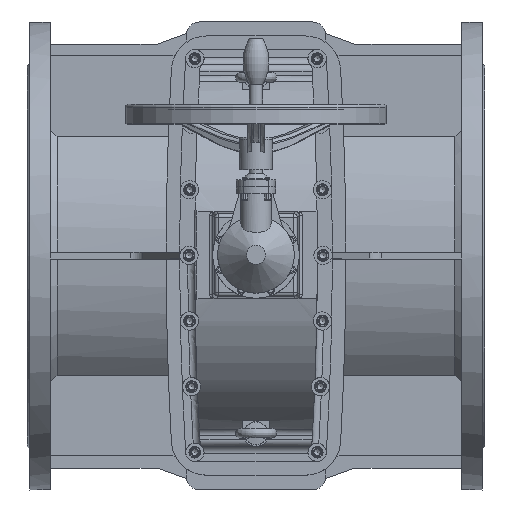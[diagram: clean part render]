
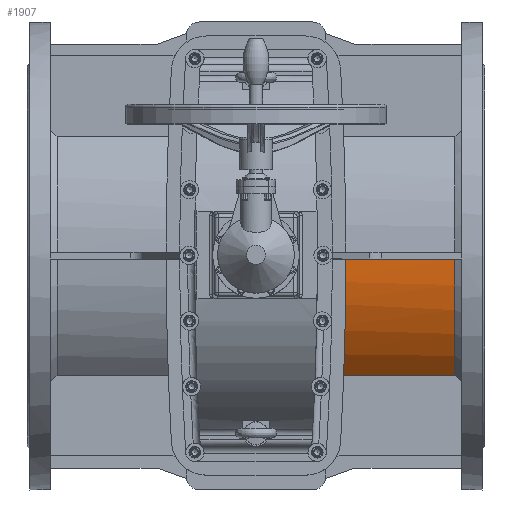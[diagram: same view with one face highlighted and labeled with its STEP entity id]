
A CAD part, top view. The second image highlights one B-rep face of the part: STEP entity #1907.
In plain terms, the highlighted cylindrical face has radius 260.5 mm (diameter 521 mm), a partial arc.
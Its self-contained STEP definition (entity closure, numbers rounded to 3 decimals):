
#1907=ADVANCED_FACE('',(#8719),#8721,.T.);
#8719=FACE_BOUND('',#8720,.T.);
#8720=EDGE_LOOP('',(#30439,#30440,#30441,#30442));
#8721=CYLINDRICAL_SURFACE('',#8722,260.5);
#8722=AXIS2_PLACEMENT_3D('',#8723,#8724,#8725);
#8723=CARTESIAN_POINT('',(314.5,0.,0.));
#8724=DIRECTION('',(-1.,0.,0.));
#8725=DIRECTION('',(0.,1.,0.));
#30439=ORIENTED_EDGE('',*,*,#36401,.F.);
#30440=ORIENTED_EDGE('',*,*,#36534,.T.);
#30441=ORIENTED_EDGE('',*,*,#36529,.F.);
#30442=ORIENTED_EDGE('',*,*,#36686,.T.);
#36401=EDGE_CURVE('',#39739,#39741,#39742,.T.);
#36529=EDGE_CURVE('',#39954,#39956,#39957,.F.);
#36534=EDGE_CURVE('',#39739,#39956,#39964,.T.);
#36686=EDGE_CURVE('',#39954,#39741,#40260,.F.);
#39739=VERTEX_POINT('',#47535);
#39741=VERTEX_POINT('',#47546);
#39742=LINE('',#47547,#47548);
#39954=VERTEX_POINT('',#49583);
#39956=VERTEX_POINT('',#49587);
#39957=LINE('',#49588,#49589);
#39964=CIRCLE('',#49613,260.5);
#40260=B_SPLINE_CURVE_WITH_KNOTS('',3,
(#50351,#50352,#50353,#50354,#50355,#50356,#50357,#50358,#50359,#50360,#50361,#50362,
#50363,#50364,#50365,#50366,#50367,#50368,#50369,#50370,#50371,#50372,#50373,#50374,
#50375,#50376,#50377,#50378,#50379,#50380,#50381,#50382,#50383,#50384,#50385),
.UNSPECIFIED.,.F.,.F.,
(4,1,1,1,1,1,1,1,1,1,1,1,1,1,1,1,1,1,1,1,1,1,1,1,1,1,1,1,1,1,1,1,4),
(0.,0.033,0.078,0.122,0.166,0.202,
0.24,0.295,0.349,0.402,0.437,
0.468,0.504,0.543,0.584,0.628,
0.67,0.712,0.739,0.763,0.784,
0.804,0.823,0.842,0.86,0.878,
0.896,0.914,0.932,0.949,0.966,
0.983,1.),
.UNSPECIFIED.);
#47535=CARTESIAN_POINT('',(304.,-183.177,185.22));
#47546=CARTESIAN_POINT('',(85.352,-183.177,185.22));
#47547=CARTESIAN_POINT('',(304.,-183.177,185.22));
#47548=VECTOR('',#47549,1.);
#47549=DIRECTION('',(-1.,0.,0.));
#49583=CARTESIAN_POINT('',(93.718,-5.25,260.447));
#49587=CARTESIAN_POINT('',(304.,-5.25,260.447));
#49588=CARTESIAN_POINT('',(304.,-5.25,260.447));
#49589=VECTOR('',#49590,1.);
#49590=DIRECTION('',(-1.,0.,0.));
#49613=AXIS2_PLACEMENT_3D('',#49614,#49615,#49616);
#49614=CARTESIAN_POINT('',(304.,0.,0.));
#49615=DIRECTION('',(-1.,0.,0.));
#49616=DIRECTION('',(0.,-0.703,0.711));
#50351=CARTESIAN_POINT('',(85.352,-183.177,185.22));
#50352=CARTESIAN_POINT('',(85.496,-181.608,186.772));
#50353=CARTESIAN_POINT('',(85.832,-177.902,190.345));
#50354=CARTESIAN_POINT('',(86.355,-171.934,195.767));
#50355=CARTESIAN_POINT('',(86.915,-165.265,201.427));
#50356=CARTESIAN_POINT('',(87.429,-158.876,206.493));
#50357=CARTESIAN_POINT('',(87.912,-152.632,211.144));
#50358=CARTESIAN_POINT('',(88.429,-145.675,216.027));
#50359=CARTESIAN_POINT('',(89.002,-137.547,221.313));
#50360=CARTESIAN_POINT('',(89.606,-128.408,226.734));
#50361=CARTESIAN_POINT('',(90.112,-120.191,231.171));
#50362=CARTESIAN_POINT('',(90.518,-113.153,234.672));
#50363=CARTESIAN_POINT('',(90.856,-107.002,237.541));
#50364=CARTESIAN_POINT('',(91.19,-100.569,240.343));
#50365=CARTESIAN_POINT('',(91.534,-93.485,243.19));
#50366=CARTESIAN_POINT('',(91.877,-85.859,245.992));
#50367=CARTESIAN_POINT('',(92.204,-77.882,248.635));
#50368=CARTESIAN_POINT('',(92.505,-69.76,251.032));
#50369=CARTESIAN_POINT('',(92.74,-62.633,252.889));
#50370=CARTESIAN_POINT('',(92.917,-56.669,254.278));
#50371=CARTESIAN_POINT('',(93.043,-52.05,255.26));
#50372=CARTESIAN_POINT('',(93.148,-47.873,256.074));
#50373=CARTESIAN_POINT('',(93.238,-43.987,256.769));
#50374=CARTESIAN_POINT('',(93.318,-40.189,257.391));
#50375=CARTESIAN_POINT('',(93.39,-36.495,257.94));
#50376=CARTESIAN_POINT('',(93.453,-32.865,258.427));
#50377=CARTESIAN_POINT('',(93.509,-29.29,258.856));
#50378=CARTESIAN_POINT('',(93.558,-25.75,259.232));
#50379=CARTESIAN_POINT('',(93.6,-22.258,259.555));
#50380=CARTESIAN_POINT('',(93.636,-18.801,259.828));
#50381=CARTESIAN_POINT('',(93.666,-15.379,260.053));
#50382=CARTESIAN_POINT('',(93.689,-11.982,260.232));
#50383=CARTESIAN_POINT('',(93.707,-8.61,260.365));
#50384=CARTESIAN_POINT('',(93.715,-6.368,260.425));
#50385=CARTESIAN_POINT('',(93.718,-5.25,260.447));
